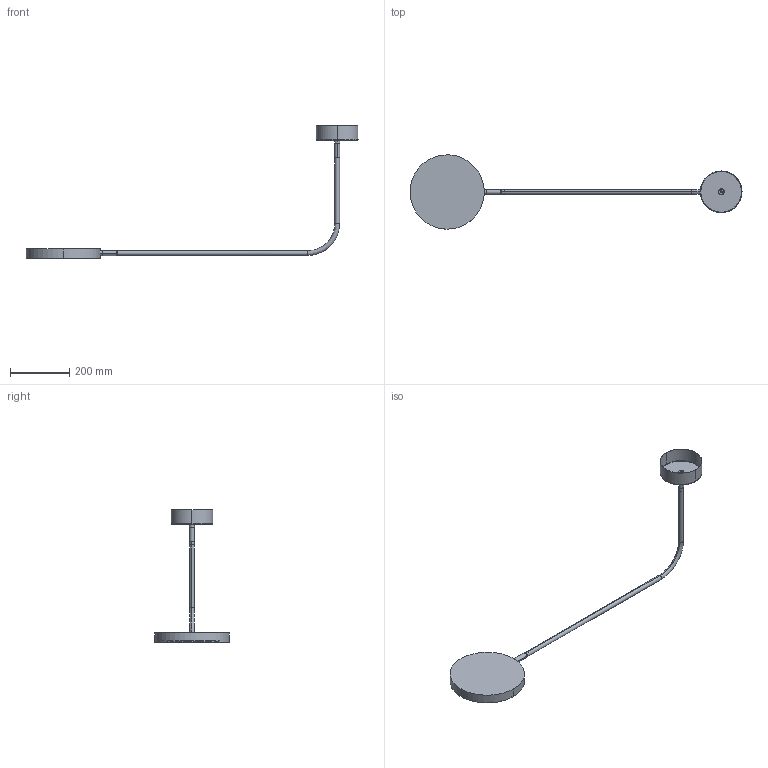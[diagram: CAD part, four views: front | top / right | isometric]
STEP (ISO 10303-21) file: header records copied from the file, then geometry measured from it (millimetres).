
FILE_DESCRIPTION(/* description */ (''),/* implementation_level */ '2;1');
FILE_NAME(/* name */ 'P084__~1',/* time_stamp */ '2024-07-01T15:01:10+02:00',/* author */ (''),/* organization */ (''),/* preprocessor_version */ 'ST-DEVELOPER v16.5',/* originating_system */ '',/* authorisation */ '');
FILE_SCHEMA (('AUTOMOTIVE_DESIGN'));
Length unit declared in the file: millimetre
Products named in the file (1): Document
Bounding box: 1116.9 x 250 x 447 mm (x, y, z)
Volume: 751169.6 mm3; surface area: 482610.9 mm2
Topology: 9 solids, 9 shells, 146 faces, 328 edges, 203 vertices
Faces by surface type: bspline 91, plane 55
Entity records: 5448 total; most frequent: CARTESIAN_POINT 3429, ORIENTED_EDGE 650, EDGE_CURVE 325, VERTEX_POINT 203, EDGE_LOOP 172, ADVANCED_FACE 146, FACE_OUTER_BOUND 146, B_SPLINE_CURVE_WITH_KNOTS 137
